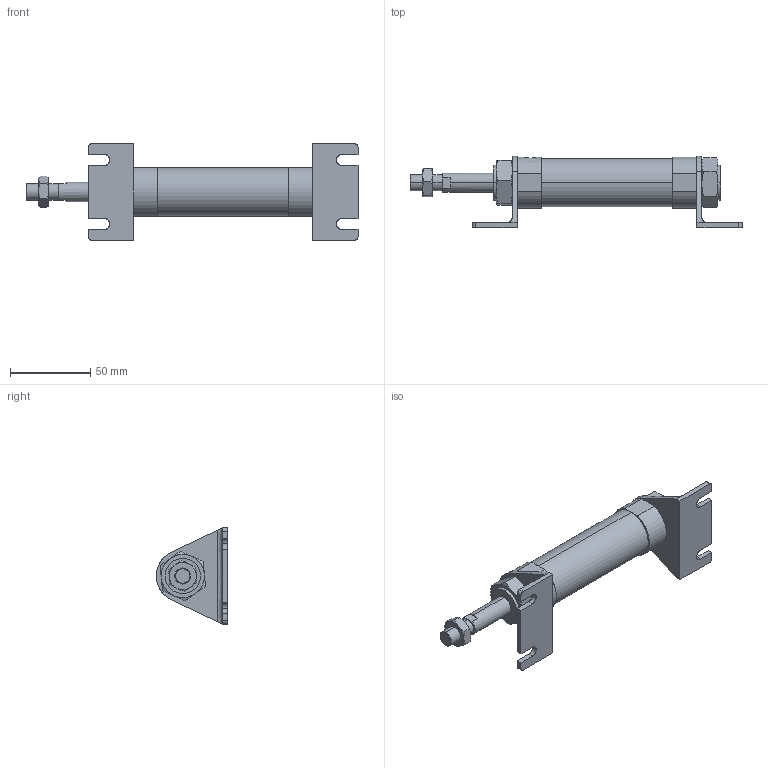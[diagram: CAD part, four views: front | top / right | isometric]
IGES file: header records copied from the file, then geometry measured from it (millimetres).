
Start section: SolidWorks IGES file using analytic representation for surfaces
Global section: file name: C:\Users\Toshiba\Desktop\J#0-25-25-L.IGS; native system: SolidWorks 2014; preprocessor: SolidWorks 2014; author: Toshiba; date: 160310.084338; units: millimetre
Bounding box: 207.2 x 44.5 x 60 mm (x, y, z)
Surface area: 35123.4 mm2 (no closed solid volume)
Topology: 0 solids, 0 shells, 167 faces, 2718 edges, 2716 vertices
Faces by surface type: bspline 111, revolution 56
